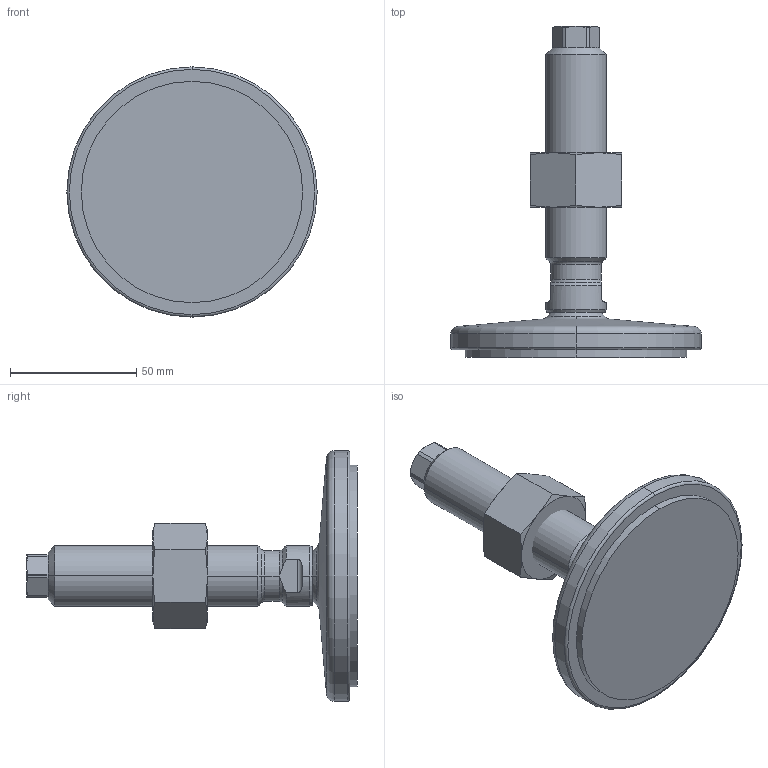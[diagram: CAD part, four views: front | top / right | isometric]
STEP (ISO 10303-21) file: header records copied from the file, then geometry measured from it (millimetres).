
FILE_DESCRIPTION (( 'STEP AP214' ), '1' );
FILE_NAME ('21-100-M24-100-D1-VK.step', '2020-10-02T17:37:29', ( '' ), ( '' ), 'SwSTEP 2.0', 'SolidWorks 2019', '' );
FILE_SCHEMA (( 'AUTOMOTIVE_DESIGN' ));
Length unit declared in the file: millimetre
Products named in the file (4): WB21_Spindel_V^WB21_V_M24-100; 21-100-M24-100-D1-VK; WB4032^WB21_V_M24; WB21_Fußteller 21^WB21_V_D1-100-R14-B9 (M24)
Assembly tree (3 placements, depth 2):
  21-100-M24-100-D1-VK
    WB21_Fußteller 21^WB21_V_D1-100-R14-B9 (M24)
    WB21_Spindel_V^WB21_V_M24-100
    WB4032^WB21_V_M24
Bounding box: 99 x 130.9 x 99 mm (x, y, z)
Volume: 162956 mm3; surface area: 33598.3 mm2
Topology: 3 solids, 3 shells, 98 faces, 219 edges, 129 vertices
Faces by surface type: cone 29, plane 28, cylinder 27, torus 10, sphere 4
Entity records: 3129 total; most frequent: CARTESIAN_POINT 736, DIRECTION 476, ORIENTED_EDGE 438, EDGE_CURVE 219, AXIS2_PLACEMENT_3D 205, VERTEX_POINT 129, EDGE_LOOP 102, CIRCLE 101
